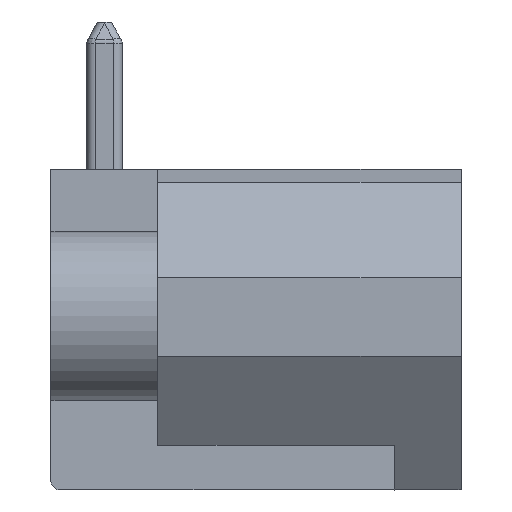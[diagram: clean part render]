
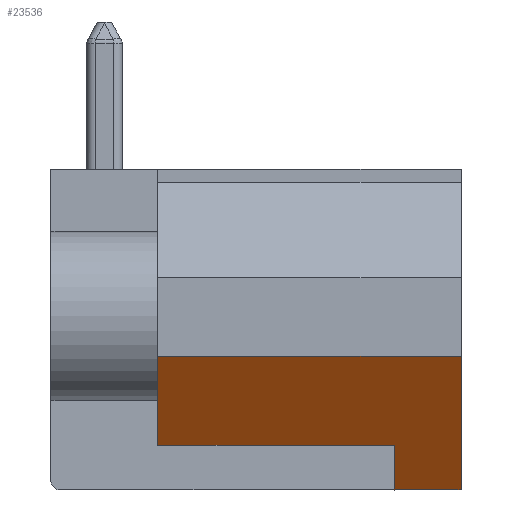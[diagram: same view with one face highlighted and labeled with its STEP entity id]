
A CAD part, left-side view. The second image highlights one B-rep face of the part: STEP entity #23536.
In plain terms, the highlighted planar face has unit normal (-0.819, 0, -0.574).
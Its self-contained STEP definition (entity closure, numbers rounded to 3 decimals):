
#22543 = VERTEX_POINT ( 'NONE', #48277 ) ;
#22569 = VERTEX_POINT ( 'NONE', #48296 ) ;
#22627 = EDGE_CURVE ( 'NONE', #22569, #22543, #48406, .T. ) ;
#23073 = VERTEX_POINT ( 'NONE', #49041 ) ;
#23075 = EDGE_CURVE ( 'NONE', #23076, #23073, #49040, .T. ) ;
#23076 = VERTEX_POINT ( 'NONE', #49036 ) ;
#23131 = EDGE_CURVE ( 'NONE', #23073, #22543, #49168, .T. ) ;
#23359 = VERTEX_POINT ( 'NONE', #49413 ) ;
#23361 = EDGE_CURVE ( 'NONE', #22569, #23359, #49412, .T. ) ;
#23478 = VERTEX_POINT ( 'NONE', #49530 ) ;
#23535 = EDGE_CURVE ( 'NONE', #23478, #23076, #49649, .T. ) ;
#23536 = ADVANCED_FACE ( 'NONE', ( #49643 ), #49640, .T. ) ;
#23537 = EDGE_LOOP ( 'NONE', ( #23538, #23540, #23541, #23542, #23543, #23544 ) ) ;
#23538 = ORIENTED_EDGE ( 'NONE', *, *, #23539, .F. ) ;
#23539 = EDGE_CURVE ( 'NONE', #23478, #23359, #49635, .T. ) ;
#23540 = ORIENTED_EDGE ( 'NONE', *, *, #23535, .T. ) ;
#23541 = ORIENTED_EDGE ( 'NONE', *, *, #23075, .T. ) ;
#23542 = ORIENTED_EDGE ( 'NONE', *, *, #23131, .T. ) ;
#23543 = ORIENTED_EDGE ( 'NONE', *, *, #22627, .F. ) ;
#23544 = ORIENTED_EDGE ( 'NONE', *, *, #23361, .T. ) ;
#48277 = CARTESIAN_POINT ( 'NONE',  ( -30.526, -5.027, -5.9 ) ) ;
#48296 = CARTESIAN_POINT ( 'NONE',  ( -29.826, -5.027, -6.9 ) ) ;
#48403 = DIRECTION ( 'NONE',  ( -0.574, 0., 0.819 ) ) ;
#48404 = VECTOR ( 'NONE', #48403, 1000. ) ;
#48405 = CARTESIAN_POINT ( 'NONE',  ( -29.826, -5.027, -6.9 ) ) ;
#48406 = LINE ( 'NONE', #48405, #48404 ) ;
#49036 = CARTESIAN_POINT ( 'NONE',  ( -31.926, 0.273, -3.901 ) ) ;
#49037 = DIRECTION ( 'NONE',  ( 0.574, 0., -0.819 ) ) ;
#49038 = VECTOR ( 'NONE', #49037, 1000. ) ;
#49039 = CARTESIAN_POINT ( 'NONE',  ( -30.876, 0.273, -5.4 ) ) ;
#49040 = LINE ( 'NONE', #49039, #49038 ) ;
#49041 = CARTESIAN_POINT ( 'NONE',  ( -30.526, 0.273, -5.9 ) ) ;
#49165 = DIRECTION ( 'NONE',  ( 0., -1., 0. ) ) ;
#49166 = VECTOR ( 'NONE', #49165, 1000. ) ;
#49167 = CARTESIAN_POINT ( 'NONE',  ( -30.526, -3.127, -5.9 ) ) ;
#49168 = LINE ( 'NONE', #49167, #49166 ) ;
#49409 = DIRECTION ( 'NONE',  ( 0., -1., 0. ) ) ;
#49410 = VECTOR ( 'NONE', #49409, 1000. ) ;
#49411 = CARTESIAN_POINT ( 'NONE',  ( -29.826, -3.127, -6.9 ) ) ;
#49412 = LINE ( 'NONE', #49411, #49410 ) ;
#49413 = CARTESIAN_POINT ( 'NONE',  ( -29.826, -6.527, -6.9 ) ) ;
#49530 = CARTESIAN_POINT ( 'NONE',  ( -31.926, -6.527, -3.901 ) ) ;
#49632 = DIRECTION ( 'NONE',  ( 0.574, 0., -0.819 ) ) ;
#49633 = VECTOR ( 'NONE', #49632, 1000. ) ;
#49634 = CARTESIAN_POINT ( 'NONE',  ( -31.926, -6.527, -3.901 ) ) ;
#49635 = LINE ( 'NONE', #49634, #49633 ) ;
#49636 = DIRECTION ( 'NONE',  ( -0.574, 0., 0.819 ) ) ;
#49637 = DIRECTION ( 'NONE',  ( -0.819, 0., -0.574 ) ) ;
#49638 = CARTESIAN_POINT ( 'NONE',  ( -29.826, -6.527, -6.9 ) ) ;
#49639 = AXIS2_PLACEMENT_3D ( 'NONE', #49638, #49637, #49636 ) ;
#49640 = PLANE ( 'NONE',  #49639 ) ;
#49643 = FACE_OUTER_BOUND ( 'NONE', #23537, .T. ) ;
#49645 = DIRECTION ( 'NONE',  ( 0., 1., 0. ) ) ;
#49646 = VECTOR ( 'NONE', #49645, 1000. ) ;
#49647 = CARTESIAN_POINT ( 'NONE',  ( -31.926, -3.127, -3.901 ) ) ;
#49649 = LINE ( 'NONE', #49647, #49646 ) ;
